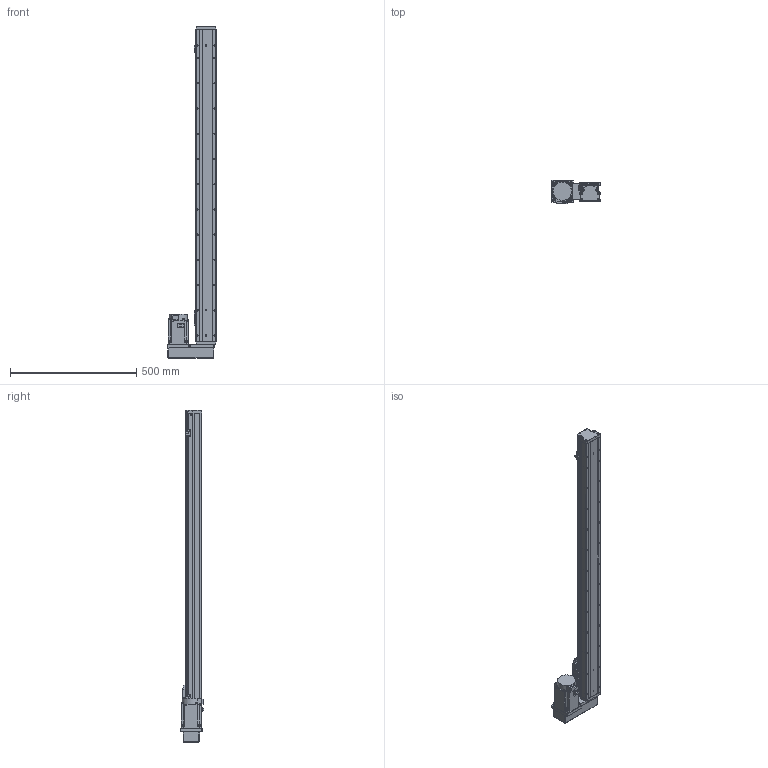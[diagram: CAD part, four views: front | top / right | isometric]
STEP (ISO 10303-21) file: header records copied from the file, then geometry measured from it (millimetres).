
FILE_DESCRIPTION (( 'STEP AP203' ), '1' );
FILE_NAME ('GTH8-1050-BL-M75-C4.step', '2023-02-14T02:23:09', ( '微软用户' ), ( '微软中国' ), 'SwSTEP 2.0', 'SolidWorks 2020', '' );
FILE_SCHEMA (( 'CONFIG_CONTROL_DESIGN' ));
Length unit declared in the file: millimetre
Products named in the file (18): GTH80-022; BTH-M3X5X6; GTH80-001_1050; GBT 70.1-M3℅6; CTHA86-015-3_CTHA86-015-4; GTH80-003; GBT 70.1-M4×16; CTHA86-035; GTH80-004; GTH80-028; hg-kn73j_-s100; GTH80-006; GTH50-024; GTH8-1050-BL-M75-C4; GTH80-013; GTH50-023; GBT 70.3-M3℅6; GBT96.1-2002 3×0.8
Assembly tree (57 placements, depth 2):
  GTH8-1050-BL-M75-C4
    GTH80-001_1050
    GTH80-003
    GTH80-004
    GTH80-006
    GTH80-013
    GBT 70.3-M3℅6  x4
    GTH80-022
    GBT 70.1-M3℅6  x14
    GBT 70.1-M4×16  x8
    GTH80-028  x2
    GTH50-024  x3
    GTH50-023  x3
    GBT96.1-2002 3×0.8  x6
    BTH-M3X5X6  x8
    CTHA86-015-3_CTHA86-015-4
    CTHA86-035
    hg-kn73j_-s100
Bounding box: 193.5 x 92.3 x 1316 mm (x, y, z)
Volume: 6912005.4 mm3; surface area: 656865.8 mm2
Topology: 59 solids, 59 shells, 2215 faces, 5154 edges, 3160 vertices
Faces by surface type: plane 1153, cylinder 647, cone 243, torus 158, sphere 12, bspline 2
Entity records: 40328 total; most frequent: CARTESIAN_POINT 6767, DIRECTION 6669, ORIENTED_EDGE 6118, EDGE_CURVE 3059, AXIS2_PLACEMENT_3D 2362, LINE 1945, VECTOR 1945, VERTEX_POINT 1935
